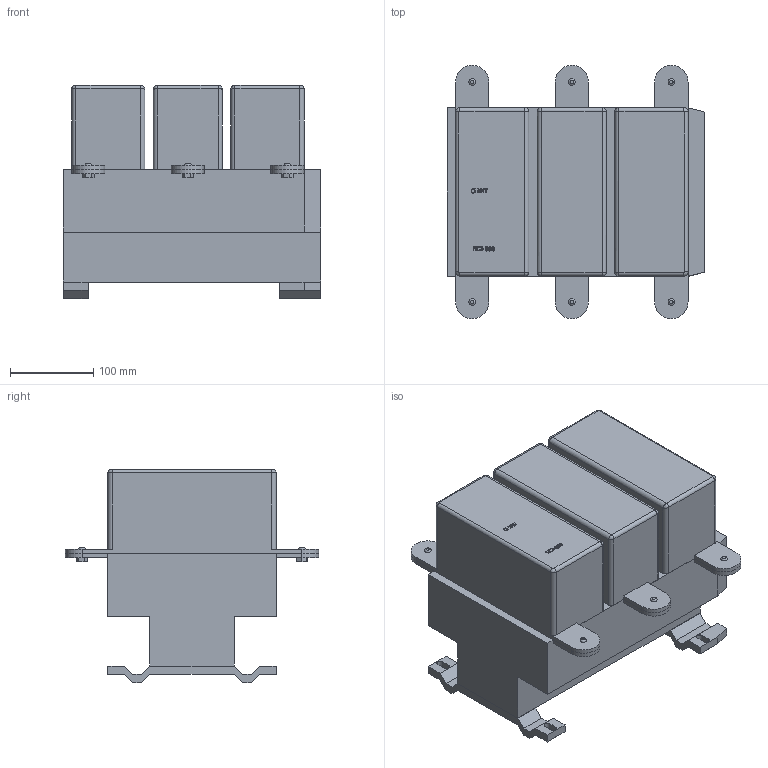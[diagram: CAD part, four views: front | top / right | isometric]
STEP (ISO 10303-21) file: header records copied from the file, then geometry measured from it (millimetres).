
FILE_DESCRIPTION(/* description */ (''),/* implementation_level */ '2;1');
FILE_NAME(/* name */ 'D:\CHINT2\NC2\NC2-800 230В 50Гц.stp',/* time_stamp */ '2017-11-12T21:00:57+03:00',/* author */ ('RSagdiev'),/* organization */ (''),/* preprocessor_version */ 'ST-DEVELOPER v16.5',/* originating_system */ 'Autodesk Inventor 2017',/* authorisation */ '');
FILE_SCHEMA (('AUTOMOTIVE_DESIGN { 1 0 10303 214 3 1 1 }'));
Length unit declared in the file: millimetre
Products named in the file (1): NC2-800 230В 50Гц
Bounding box: 309 x 304 x 256.1 mm (x, y, z)
Volume: 12107064.3 mm3; surface area: 621971.7 mm2
Topology: 18 solids, 18 shells, 412 faces, 1066 edges, 698 vertices
Faces by surface type: plane 264, bspline 104, cylinder 44
Entity records: 13562 total; most frequent: CARTESIAN_POINT 4016, ORIENTED_EDGE 2116, DIRECTION 1614, EDGE_CURVE 1058, LINE 764, VECTOR 764, VERTEX_POINT 698, EDGE_LOOP 436
